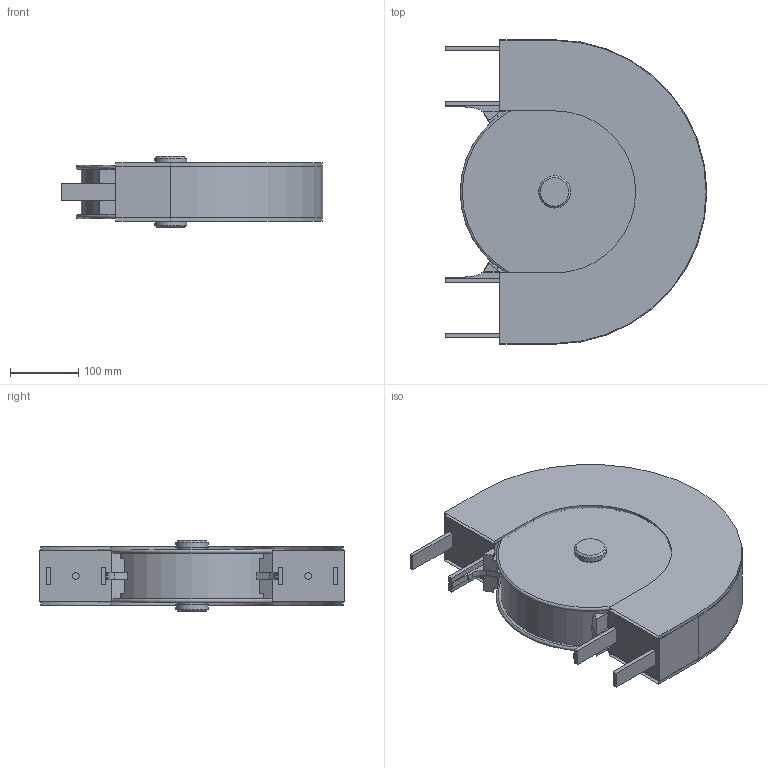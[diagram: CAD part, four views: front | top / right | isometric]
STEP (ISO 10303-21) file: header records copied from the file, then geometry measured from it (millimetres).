
FILE_DESCRIPTION(/* description */ ('Bogenrad 180°'),/* implementation_level */ '2;1');
FILE_NAME(/* name */ 'T:\vdz0\Step Daten Website\modulflex FH-System\Bogenräder\FHBH 180R170 A_44022.stp',/* time_stamp */ '2024-09-03T10:55:28+02:00',/* author */ ('lzb0'),/* organization */ ('modular automation GmbH'),/* preprocessor_version */ 'ST-DEVELOPER v18.1',/* originating_system */ 'Autodesk Inventor 2021',/* authorisation */ '');
FILE_SCHEMA (('AUTOMOTIVE_DESIGN { 1 0 10303 214 3 1 1 }'));
Length unit declared in the file: millimetre
Products named in the file (1): FHBH 180R170 A
Bounding box: 382.5 x 445 x 104 mm (x, y, z)
Volume: 9918187.9 mm3; surface area: 821239.4 mm2
Topology: 8 solids, 12 shells, 123 faces, 289 edges, 192 vertices
Faces by surface type: plane 104, cylinder 15, cone 2, torus 2
Full cylindrical faces by diameter (mm): 10 x2, 42 x2, 47 x2, 262 x1
Entity records: 3581 total; most frequent: CARTESIAN_POINT 612, DIRECTION 577, ORIENTED_EDGE 558, EDGE_CURVE 289, LINE 251, VECTOR 251, VERTEX_POINT 192, AXIS2_PLACEMENT_3D 163
